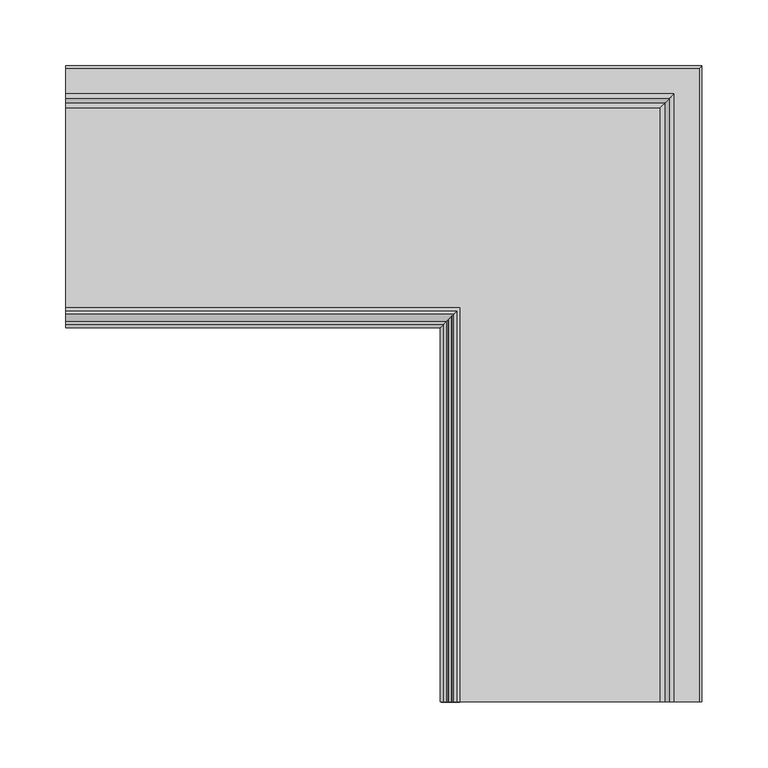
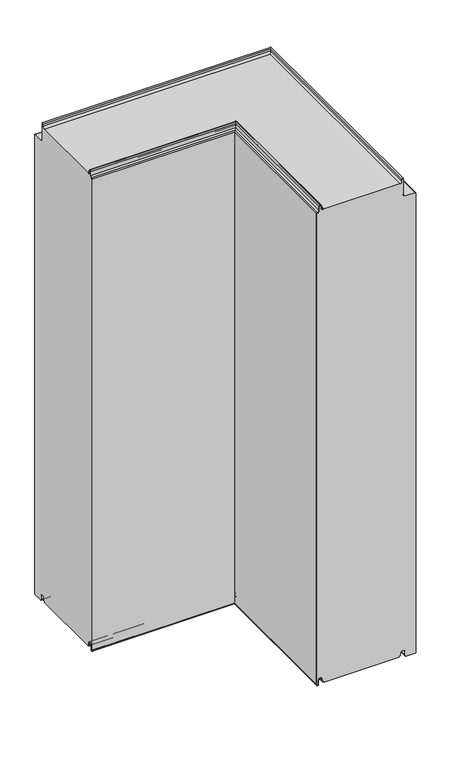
"""IFC4 building model written with IfcOpenShell, lengths in millimetres: plate geometry, Угловой модуль Fronttop : Угловой модуль Fronttop 200/1000."""

import ifcopenshell
import ifcopenshell.guid

model = None  # the IFC model being written
_history = None  # IfcOwnerHistory: only IFC2X3 demands one
_inside = {}  # id of a spatial element -> (the spatial element, [elements in it])
_under = {}  # id of a project, library or spatial element -> (it, [spatial elements below it])
_declared = {}  # id of a project -> (the project, [libraries it declares])
_typed = {}  # id of a type object -> (the type object, [elements of that type])
_made_of = {}  # id of a material, layer set ... -> (it, [elements and type objects made of it])


def new_model(schema):
    """Start an empty IFC model of exactly this schema.

    Asked for "IFC4X3", IfcOpenShell would pick the latest addendum, in which some entities
    have other attributes; the version numbers below select the first issue.
    IFC2X3 requires an IfcOwnerHistory on every rooted entity: one is made here for all.
    """
    global model, _history
    if schema == "IFC4X3":
        model = ifcopenshell.file(schema_version=(4, 3, 0, 0))
    else:
        model = ifcopenshell.file(schema=schema)
    _inside.clear()
    _under.clear()
    _declared.clear()
    _typed.clear()
    _made_of.clear()
    _history = None
    if model.schema == "IFC2X3":
        org = make("IfcOrganization", Name="unknown")
        user = make(
            "IfcPersonAndOrganization",
            ThePerson=make("IfcPerson", FamilyName="unknown"),
            TheOrganization=org,
        )
        app = make(
            "IfcApplication",
            ApplicationDeveloper=org,
            Version="unknown",
            ApplicationFullName="unknown",
            ApplicationIdentifier="unknown",
        )
        _history = make(
            "IfcOwnerHistory",
            OwningUser=user,
            OwningApplication=app,
            ChangeAction="ADDED",
            CreationDate=0,
        )
    return model


def make(cls, **values):
    """One entity of the class cls with the attributes given. An attribute that is None is left unset."""
    return model.create_entity(
        cls, **{name: value for name, value in values.items() if value is not None}
    )


def rooted(cls, **values):
    """An entity with a GlobalId (a new one), such as an element, a storey or a relation."""
    return make(cls, GlobalId=ifcopenshell.guid.new(), OwnerHistory=_history, **values)


def si_unit(unit_type, name, prefix=None):
    """IfcSIUnit, for example si_unit("LENGTHUNIT", "METRE", prefix="MILLI")."""
    return make("IfcSIUnit", UnitType=unit_type, Prefix=prefix, Name=name)


def assignment(units):
    """IfcUnitAssignment: the units of a project."""
    return None if units is None else make("IfcUnitAssignment", Units=units)


def point(xyz):
    """IfcCartesianPoint."""
    return None if xyz is None else make("IfcCartesianPoint", Coordinates=xyz)


def direction(xyz):
    """IfcDirection."""
    return None if xyz is None else make("IfcDirection", DirectionRatios=xyz)


def frame(location, z_axis=None, x_axis=None):
    """IfcAxis2Placement3D, a coordinate frame: its origin and axes. An axis left out is left unset."""
    return make(
        "IfcAxis2Placement3D",
        Location=point(location),
        Axis=direction(z_axis),
        RefDirection=direction(x_axis),
    )


def origin():
    """The frame at (0, 0, 0) with its axes left unset."""
    return frame((0.0, 0.0, 0.0))


def place(relative_to, where):
    """IfcLocalPlacement: puts the frame where relative to a parent placement (None: the world)."""
    return make(
        "IfcLocalPlacement", PlacementRelTo=relative_to, RelativePlacement=where
    )


def context(
    kind, dimensions, precision=None, world=None, true_north=None, identifier=None
):
    """IfcGeometricRepresentationContext, for example the 3D "Model" context."""
    return make(
        "IfcGeometricRepresentationContext",
        ContextIdentifier=identifier,
        ContextType=kind,
        CoordinateSpaceDimension=dimensions,
        Precision=precision,
        WorldCoordinateSystem=world,
        TrueNorth=true_north,
    )


def project(units=None, contexts=None):
    """IfcProject with its units and contexts."""
    return rooted(
        "IfcProject",
        Name="project",
        RepresentationContexts=contexts,
        UnitsInContext=assignment(units),
    )


def spatial(cls, under=None, at=None, **own):
    """A site, building, storey or space (cls), placed at a placement, below another one or the project."""
    s = rooted(cls, ObjectPlacement=at, **own)
    if under is not None:
        _under.setdefault(under.id(), (under, []))[1].append(s)
    return s


def polyline(points):
    """IfcPolyline through the points."""
    return make("IfcPolyline", Points=[point(p) for p in points])


def circle_curve(where, radius):
    """IfcCircle in the frame where."""
    return make("IfcCircle", Position=where, Radius=radius)


def ellipse_curve(where, semi_axis1, semi_axis2):
    """IfcEllipse in the frame where."""
    return make(
        "IfcEllipse", Position=where, SemiAxis1=semi_axis1, SemiAxis2=semi_axis2
    )


def shape(context_of_items, identifier, shape_type, items):
    """IfcShapeRepresentation: the items that make up one representation, for example the "Body"."""
    return make(
        "IfcShapeRepresentation",
        ContextOfItems=context_of_items,
        RepresentationIdentifier=identifier,
        RepresentationType=shape_type,
        Items=items,
    )


def source(mapping_origin, context_of_items, identifier, shape_type, items):
    """IfcRepresentationMap: a shape defined once, which mapped items show again and again."""
    return make(
        "IfcRepresentationMap",
        MappingOrigin=mapping_origin,
        MappedRepresentation=shape(context_of_items, identifier, shape_type, items),
    )


def transform(
    local_origin,
    x_axis=None,
    y_axis=None,
    z_axis=None,
    scale=None,
    scale2=None,
    scale3=None,
    uniform=True,
):
    """IfcCartesianTransformationOperator3D, or its non-uniform kind. x_axis, y_axis, z_axis: its Axis1, 2, 3."""
    if uniform:
        return make(
            "IfcCartesianTransformationOperator3D",
            Axis1=direction(x_axis),
            Axis2=direction(y_axis),
            LocalOrigin=point(local_origin),
            Scale=scale,
            Axis3=direction(z_axis),
        )
    return make(
        "IfcCartesianTransformationOperator3DnonUniform",
        Axis1=direction(x_axis),
        Axis2=direction(y_axis),
        LocalOrigin=point(local_origin),
        Scale=scale,
        Axis3=direction(z_axis),
        Scale2=scale2,
        Scale3=scale3,
    )


def mapped(mapping_source, mapping_target):
    """IfcMappedItem: shows the shape of a source again, moved by a transform."""
    return make(
        "IfcMappedItem", MappingSource=mapping_source, MappingTarget=mapping_target
    )


def made_of(thing, what):
    """Note that an element or type object is made of a material, layer set ...; save() writes the relation."""
    if what is not None:
        _made_of.setdefault(what.id(), (what, []))[1].append(thing)
    return thing


def element(
    cls,
    number,
    at=None,
    inside=None,
    cuts=None,
    type_object=None,
    material=None,
    context=None,
    identifier="Body",
    shape_type=None,
    held_by="IfcProductDefinitionShape",
    body=None,
    shapes=None,
    **own,
):
    """One element of the class cls, such as IfcWall. Its Tag is "e" and its number.

    at: its placement. inside: the storey or other place that contains it. cuts: it is an
    opening in that element (IfcRelVoidsElement). A single representation is given by context,
    identifier, shape_type and body (its items); several are given by shapes. held_by: the class
    of the entity that holds the representations. save() writes the other relations.
    """
    e = rooted(cls, Tag="e%d" % number, ObjectPlacement=at, **own)
    if body is not None:
        shapes = [shape(context, identifier, shape_type, body)]
    if shapes is not None:
        e.Representation = make(held_by, Representations=shapes)
    if inside is not None:
        _inside.setdefault(inside.id(), (inside, []))[1].append(e)
    if cuts is not None:
        rooted(
            "IfcRelVoidsElement", RelatingBuildingElement=cuts, RelatedOpeningElement=e
        )
    if type_object is not None:
        _typed.setdefault(type_object.id(), (type_object, []))[1].append(e)
    return made_of(e, material)


def aggregate(whole, parts):
    """IfcRelAggregates: a whole, such as a stair, and the parts it consists of."""
    return rooted("IfcRelAggregates", RelatingObject=whole, RelatedObjects=parts)


def save(model, path):
    """Write the relations noted so far, then the file.

    IfcRelAggregates (storeys below a building ...), IfcRelContainedInSpatialStructure (elements
    in a storey), IfcRelDefinesByType, IfcRelAssociatesMaterial and IfcRelDeclares: one each for
    every whole, place, type object, material and project.
    """
    for whole, parts in _under.values():
        aggregate(whole, parts)
    for where, things in _inside.values():
        rooted(
            "IfcRelContainedInSpatialStructure",
            RelatedElements=things,
            RelatingStructure=where,
        )
    for kind, things in _typed.values():
        rooted("IfcRelDefinesByType", RelatedObjects=things, RelatingType=kind)
    for what, things in _made_of.values():
        rooted("IfcRelAssociatesMaterial", RelatedObjects=things, RelatingMaterial=what)
    for by, libraries in _declared.values():
        rooted("IfcRelDeclares", RelatingContext=by, RelatedDefinitions=libraries)
    model.write(path)


def plane_surface(at):
    """IfcPlane: the flat surface through the origin of the frame at, square to its z axis."""
    return make("IfcPlane", Position=at)


def cylinder_surface(at, radius):
    """IfcCylindricalSurface: all points at the distance radius from the z axis of the frame at."""
    return make("IfcCylindricalSurface", Position=at, Radius=radius)


def revolved_surface(curve, axis_point, axis_direction):
    """IfcSurfaceOfRevolution: the curve turned about the line through axis_point along axis_direction."""
    return make(
        "IfcSurfaceOfRevolution",
        SweptCurve=make("IfcArbitraryOpenProfileDef", ProfileType="CURVE", Curve=curve),
        AxisPosition=make("IfcAxis1Placement", Location=point(axis_point), Axis=direction(axis_direction)),
    )


def advanced_brep(points, edges, surfaces, faces):
    """IfcAdvancedBrep: a solid bounded by faces that lie on surfaces and meet in shared edges.

    An edge is (start, end): straight between two places in points (the first is 0);
    or (start, end, curve); or (start, end, curve, False) where it runs against its curve.
    A face is (place in surfaces, loops), or (place, loops, False) where it looks against
    its surface's normal. A loop lists edges by number (the first is 1), with a minus sign
    where the edge is run from its end to its start. The first loop is the outer one.
    """
    corners = [point(p) for p in points]
    vertices = [make("IfcVertexPoint", VertexGeometry=c) for c in corners]
    made = []
    for start, end, *more in edges:
        made.append(
            make(
                "IfcEdgeCurve",
                EdgeStart=vertices[start],
                EdgeEnd=vertices[end],
                EdgeGeometry=more[0] if more else make("IfcPolyline", Points=[corners[start], corners[end]]),
                SameSense=more[1] if len(more) > 1 else True,
            )
        )
    hull = []
    for where, loops, *sense in faces:
        bounds = []
        for j, loop in enumerate(loops):
            ring = [make("IfcOrientedEdge", EdgeElement=made[abs(k) - 1], Orientation=k > 0) for k in loop]
            bounds.append(
                make(
                    "IfcFaceOuterBound" if j == 0 else "IfcFaceBound",
                    Bound=make("IfcEdgeLoop", EdgeList=ring),
                    Orientation=True,
                )
            )
        hull.append(make("IfcAdvancedFace", Bounds=bounds, FaceSurface=surfaces[where], SameSense=sense[0] if sense else True))
    return make("IfcAdvancedBrep", Outer=make("IfcClosedShell", CfsFaces=hull))


def plate_5b8e8318(model_context):
    return source(origin(), model_context, "Body", "AdvancedBrep", [
        advanced_brep(
        [(-234.5, 15.0, 3.0), (-234.5, 13.0, 3.0), (-234.5, 12.0, 4.0), (-234.5, 12.0, 8.0), (-234.5, 3.0, 8.0), (-234.5, 3.0, -0.5), (-234.5, 1.0, -0.5), (-234.5, 1.0, 995.0278643), (-234.5, 2.1111111, 996.0216723), (-234.5, 6.0, 999.5), (-234.5, 6.0, 1008.0), (-234.5, 9.0, 1008.0), (-234.5, 9.0, 1004.0), (-234.5, 13.0, 1000.0), (-234.5, 167.0, 1000.0), (-234.5, 171.0, 1004.0), (-234.5, 171.0, 1008.0), (-234.5, 174.0, 1008.0), (-234.5, 174.0, 975.0), (-234.5, 178.0, 971.0), (-234.5, 197.0, 971.0), (-234.5, 199.0, 969.0), (-234.5, 199.0, 0.0), (-234.5, 197.0, -2.0), (-234.5, 179.0, -2.0), (-234.5, 177.0, 0.0), (-234.5, 177.0, 8.0), (-234.5, 168.0, 8.0), (-234.5, 168.0, 4.0), (-234.5, 167.0, 3.0), (-234.5, 165.0, 3.0), (-234.5, 165.0, 0.0), (-234.5, 15.0, 0.0), (65.0, 15.0, 0.0), (65.0, 15.0, 3.0), (215.0, 165.0, 0.0), (215.0, -284.5, 0.0), (65.0, -284.5, 0.0), (215.0, 165.0, 3.0), (217.0, 167.0, 3.0), (217.0, -284.5, 3.0), (215.0, -284.5, 3.0), (218.0, 168.0, 4.0), (218.0, 168.0, 8.0), (227.0, 177.0, 8.0), (227.0, 177.0, 0.0), (229.0, 179.0, -2.0), (247.0, 197.0, -2.0), (247.0, -284.5, -2.0), (229.0, -284.5, -2.0), (249.0, 199.0, 0.0), (249.0, 199.0, 969.0), (247.0, 197.0, 971.0), (228.0, 178.0, 971.0), (228.0, -284.5, 971.0), (247.0, -284.5, 971.0), (224.0, 174.0, 975.0), (224.0, 174.0, 1008.0), (221.0, 171.0, 1008.0), (221.0, 171.0, 1004.0), (217.0, 167.0, 1000.0), (63.0, 13.0, 1000.0), (63.0, -284.5, 1000.0), (217.0, -284.5, 1000.0), (59.0, 9.0, 1004.0), (59.0, 9.0, 1008.0), (56.0, 6.0, 1008.0), (56.0, 6.0, 999.5), (52.1111111, 2.1111111, 996.021672), (51.0, 1.0, 995.0278643), (51.0, 1.0, -0.5), (53.0, 3.0, -0.5), (53.0, 3.0, 8.0), (62.0, 12.0, 8.0), (62.0, 12.0, 4.0), (63.0, 13.0, 3.0), (65.0, -284.5, 3.0), (63.0, -284.5, 3.0), (218.0, -284.5, 4.0), (218.0, -284.5, 8.0), (227.0, -284.5, 8.0), (227.0, -284.5, 0.0), (249.0, -284.5, 0.0), (249.0, -284.5, 969.0), (224.0, -284.5, 975.0), (224.0, -284.5, 1008.0), (221.0, -284.5, 1008.0), (221.0, -284.5, 1004.0), (59.0, -284.5, 1004.0), (59.0, -284.5, 1008.0), (56.0, -284.5, 1008.0), (56.0, -284.5, 999.5), (52.1111111, -284.5, 996.021672), (51.0, -284.5, 995.0278643), (51.0, -284.5, -0.5), (53.0, -284.5, -0.5), (53.0, -284.5, 8.0), (62.0, -284.5, 8.0), (62.0, -284.5, 4.0)],
        [
            (0, 1),
            (1, 2, circle_curve(frame((-234.5, 13.0, 4.0), z_axis=(-1.0, 0.0, 0.0), x_axis=(0.0, -1.0, 0.0)), 1.0)),
            (2, 3),
            (3, 4, circle_curve(frame((-234.5, 7.5, 8.0), z_axis=(1.0, 0.0, 0.0), x_axis=(0.0, -1.0, 0.0)), 4.5)),
            (4, 5),
            (5, 6, circle_curve(frame((-234.5, 2.0, -0.5), z_axis=(-1.0, 0.0, 0.0), x_axis=(0.0, -1.0, 0.0)), 1.0)),
            (6, 7),
            (7, 8, circle_curve(frame((-234.5, 2.0, 995.0278643), z_axis=(-1.0, 0.0, 0.0), x_axis=(0.0, -1.0, 0.0)), 1.0)),
            (8, 9, circle_curve(frame((-234.5, 2.5, 999.5), z_axis=(1.0, 0.0, 0.0), x_axis=(0.0, -1.0, 0.0)), 3.5)),
            (9, 10),
            (10, 11, circle_curve(frame((-234.5, 7.5, 1008.0), z_axis=(-1.0, 0.0, 0.0), x_axis=(0.0, -1.0, 0.0)), 1.5)),
            (11, 12),
            (12, 13, circle_curve(frame((-234.5, 13.0, 1004.0), z_axis=(1.0, 0.0, 0.0), x_axis=(0.0, -1.0, 0.0)), 4.0)),
            (13, 14),
            (14, 15, circle_curve(frame((-234.5, 167.0, 1004.0), z_axis=(1.0, 0.0, 0.0), x_axis=(0.0, -1.0, 0.0)), 4.0)),
            (15, 16),
            (16, 17, circle_curve(frame((-234.5, 172.5, 1008.0), z_axis=(-1.0, 0.0, 0.0), x_axis=(0.0, -1.0, 0.0)), 1.5)),
            (17, 18),
            (18, 19, circle_curve(frame((-234.5, 178.0, 975.0), z_axis=(1.0, 0.0, 0.0), x_axis=(0.0, -1.0, 0.0)), 4.0)),
            (19, 20),
            (20, 21, circle_curve(frame((-234.5, 197.0, 969.0), z_axis=(-1.0, 0.0, 0.0), x_axis=(0.0, -1.0, 0.0)), 2.0)),
            (21, 22),
            (22, 23, circle_curve(frame((-234.5, 197.0, 0.0), z_axis=(-1.0, 0.0, 0.0), x_axis=(0.0, -1.0, 0.0)), 2.0)),
            (23, 24),
            (24, 25, circle_curve(frame((-234.5, 179.0, 0.0), z_axis=(-1.0, 0.0, 0.0), x_axis=(0.0, -1.0, 0.0)), 2.0)),
            (25, 26),
            (26, 27, circle_curve(frame((-234.5, 172.5, 8.0), z_axis=(1.0, 0.0, 0.0), x_axis=(0.0, -1.0, 0.0)), 4.5)),
            (27, 28),
            (28, 29, circle_curve(frame((-234.5, 167.0, 4.0), z_axis=(-1.0, 0.0, 0.0), x_axis=(0.0, -1.0, 0.0)), 1.0)),
            (29, 30),
            (30, 31),
            (31, 32),
            (32, 0),
            (32, 33),
            (33, 34),
            (34, 0),
            (31, 35),
            (35, 36),
            (36, 37),
            (37, 33),
            (30, 38),
            (38, 35),
            (29, 39),
            (39, 40),
            (40, 41),
            (41, 38),
            (28, 42),
            (42, 39, ellipse_curve(frame((217.0, 167.0, 4.0), z_axis=(-0.7071067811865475, 0.7071067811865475, 0.0), x_axis=(-0.7071067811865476, -0.7071067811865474, 0.0)), 1.4142136, 1.0)),
            (27, 43),
            (43, 42),
            (26, 44),
            (44, 43, ellipse_curve(frame((222.5, 172.5, 8.0), z_axis=(0.7071067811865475, -0.7071067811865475, 0.0), x_axis=(0.7071067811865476, 0.7071067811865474, 0.0)), 6.363961, 4.5)),
            (25, 45),
            (45, 44),
            (24, 46),
            (46, 45, ellipse_curve(frame((229.0, 179.0, 0.0), z_axis=(-0.7071067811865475, 0.7071067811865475, 0.0), x_axis=(-0.7071067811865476, -0.7071067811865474, 0.0)), 2.8284271, 2.0)),
            (23, 47),
            (47, 48),
            (48, 49),
            (49, 46),
            (22, 50),
            (50, 47, ellipse_curve(frame((247.0, 197.0, 0.0), z_axis=(-0.7071067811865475, 0.7071067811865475, 0.0), x_axis=(-0.7071067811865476, -0.7071067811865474, 0.0)), 2.8284271, 2.0)),
            (21, 51),
            (51, 50),
            (20, 52),
            (52, 51, ellipse_curve(frame((247.0, 197.0, 969.0), z_axis=(-0.7071067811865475, 0.7071067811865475, 0.0), x_axis=(-0.7071067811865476, -0.7071067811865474, 0.0)), 2.8284271, 2.0)),
            (19, 53),
            (53, 54),
            (54, 55),
            (55, 52),
            (18, 56),
            (56, 53, ellipse_curve(frame((228.0, 178.0, 975.0), z_axis=(0.7071067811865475, -0.7071067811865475, 0.0), x_axis=(0.7071067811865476, 0.7071067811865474, 0.0)), 5.6568542, 4.0)),
            (17, 57),
            (57, 56),
            (16, 58),
            (58, 57, ellipse_curve(frame((222.5, 172.5, 1008.0), z_axis=(-0.7071067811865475, 0.7071067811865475, 0.0), x_axis=(-0.7071067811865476, -0.7071067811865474, 0.0)), 2.1213203, 1.5)),
            (15, 59),
            (59, 58),
            (14, 60),
            (60, 59, ellipse_curve(frame((217.0, 167.0, 1004.0), z_axis=(0.7071067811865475, -0.7071067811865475, 0.0), x_axis=(0.7071067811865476, 0.7071067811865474, 0.0)), 5.6568542, 4.0)),
            (13, 61),
            (61, 62),
            (62, 63),
            (63, 60),
            (12, 64),
            (64, 61, ellipse_curve(frame((63.0, 13.0, 1004.0), z_axis=(0.7071067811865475, -0.7071067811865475, 0.0), x_axis=(0.7071067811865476, 0.7071067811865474, 0.0)), 5.6568542, 4.0)),
            (11, 65),
            (65, 64),
            (10, 66),
            (66, 65, ellipse_curve(frame((57.5, 7.5, 1008.0), z_axis=(-0.7071067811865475, 0.7071067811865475, 0.0), x_axis=(-0.7071067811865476, -0.7071067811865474, 0.0)), 2.1213204, 1.5)),
            (9, 67),
            (67, 66),
            (8, 68),
            (68, 67, ellipse_curve(frame((52.5, 2.5, 999.5), z_axis=(0.7071067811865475, -0.7071067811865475, 0.0), x_axis=(0.7071067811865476, 0.7071067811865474, 0.0)), 4.9497475, 3.5)),
            (7, 69),
            (69, 68, ellipse_curve(frame((52.0, 2.0, 995.0278643), z_axis=(-0.7071067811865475, 0.7071067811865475, 0.0), x_axis=(-0.7071067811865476, -0.7071067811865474, 0.0)), 1.4142136, 1.0)),
            (6, 70),
            (70, 69),
            (5, 71),
            (71, 70, ellipse_curve(frame((52.0, 2.0, -0.5), z_axis=(-0.7071067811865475, 0.7071067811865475, 0.0), x_axis=(-0.7071067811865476, -0.7071067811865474, 0.0)), 1.4142136, 1.0)),
            (4, 72),
            (72, 71),
            (3, 73),
            (73, 72, ellipse_curve(frame((57.5, 7.5, 8.0), z_axis=(0.7071067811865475, -0.7071067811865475, 0.0), x_axis=(0.7071067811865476, 0.7071067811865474, 0.0)), 6.363961, 4.5)),
            (2, 74),
            (74, 73),
            (1, 75),
            (75, 74, ellipse_curve(frame((63.0, 13.0, 4.0), z_axis=(-0.7071067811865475, 0.7071067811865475, 0.0), x_axis=(-0.7071067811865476, -0.7071067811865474, 0.0)), 1.4142136, 1.0)),
            (34, 76),
            (76, 77),
            (77, 75),
            (76, 37),
            (36, 41),
            (40, 78, circle_curve(frame((217.0, -284.5, 4.0), z_axis=(0.0, -1.0, 0.0), x_axis=(-1.0, 0.0, 0.0)), 1.0)),
            (78, 79),
            (79, 80, circle_curve(frame((222.5, -284.5, 8.0), z_axis=(0.0, 1.0, 0.0), x_axis=(-1.0, 0.0, 0.0)), 4.5)),
            (80, 81),
            (81, 49, circle_curve(frame((229.0, -284.5, 0.0), z_axis=(0.0, -1.0, 0.0), x_axis=(-1.0, 0.0, 0.0)), 2.0)),
            (48, 82, circle_curve(frame((247.0, -284.5, 0.0), z_axis=(0.0, -1.0, 0.0), x_axis=(-1.0, 0.0, 0.0)), 2.0)),
            (82, 83),
            (83, 55, circle_curve(frame((247.0, -284.5, 969.0), z_axis=(0.0, -1.0, 0.0), x_axis=(-1.0, 0.0, 0.0)), 2.0)),
            (54, 84, circle_curve(frame((228.0, -284.5, 975.0), z_axis=(0.0, 1.0, 0.0), x_axis=(-1.0, 0.0, 0.0)), 4.0)),
            (84, 85),
            (85, 86, circle_curve(frame((222.5, -284.5, 1008.0), z_axis=(0.0, -1.0, 0.0), x_axis=(-1.0, 0.0, 0.0)), 1.5)),
            (86, 87),
            (87, 63, circle_curve(frame((217.0, -284.5, 1004.0), z_axis=(0.0, 1.0, 0.0), x_axis=(-1.0, 0.0, 0.0)), 4.0)),
            (62, 88, circle_curve(frame((63.0, -284.5, 1004.0), z_axis=(0.0, 1.0, 0.0), x_axis=(-1.0, 0.0, 0.0)), 4.0)),
            (88, 89),
            (89, 90, circle_curve(frame((57.5, -284.5, 1008.0), z_axis=(0.0, -1.0, 0.0), x_axis=(-1.0, 0.0, 0.0)), 1.5)),
            (90, 91),
            (91, 92, circle_curve(frame((52.5, -284.5, 999.5), z_axis=(0.0, 1.0, 0.0), x_axis=(-1.0, 0.0, 0.0)), 3.5)),
            (92, 93, circle_curve(frame((52.0, -284.5, 995.0278643), z_axis=(0.0, -1.0, 0.0), x_axis=(-1.0, 0.0, 0.0)), 1.0)),
            (93, 94),
            (94, 95, circle_curve(frame((52.0, -284.5, -0.5), z_axis=(0.0, -1.0, 0.0), x_axis=(-1.0, 0.0, 0.0)), 1.0)),
            (95, 96),
            (96, 97, circle_curve(frame((57.5, -284.5, 8.0), z_axis=(0.0, 1.0, 0.0), x_axis=(-1.0, 0.0, 0.0)), 4.5)),
            (97, 98),
            (98, 77, circle_curve(frame((63.0, -284.5, 4.0), z_axis=(0.0, -1.0, 0.0), x_axis=(-1.0, 0.0, 0.0)), 1.0)),
            (42, 78),
            (43, 79),
            (44, 80),
            (45, 81),
            (50, 82),
            (51, 83),
            (56, 84),
            (57, 85),
            (58, 86),
            (59, 87),
            (64, 88),
            (65, 89),
            (66, 90),
            (67, 91),
            (68, 92),
            (69, 93),
            (70, 94),
            (71, 95),
            (72, 96),
            (73, 97),
            (74, 98),
        ],
        [
            plane_surface(frame((-234.5, 0.0, 0.0), z_axis=(-1.0, 0.0, 0.0), x_axis=(0.0, 0.0, 1.0))),
            plane_surface(frame((-234.5, 15.0, 0.0), z_axis=(0.0, -1.0, 0.0), x_axis=(1.0, 0.0, 0.0))),
            plane_surface(frame((-234.5, 165.0, 0.0), z_axis=(0.0, 0.0, -1.0), x_axis=(1.0, 0.0, 0.0))),
            plane_surface(frame((-234.5, 165.0, 3.0), z_axis=(0.0, 1.0, 0.0), x_axis=(1.0, 0.0, 0.0))),
            plane_surface(frame((-234.5, 167.0, 3.0), z_axis=(0.0, 0.0, -1.0), x_axis=(1.0, 0.0, 0.0))),
            cylinder_surface(frame((-234.5, 167.0, 4.0), z_axis=(-1.0, 0.0, 0.0), x_axis=(0.0, -1.0, 0.0)), 1.0),
            plane_surface(frame((-234.5, 168.0, 8.0), z_axis=(0.0, 1.0, 0.0), x_axis=(1.0, 0.0, 0.0))),
            revolved_surface(polyline([(227.0, 168.0, 8.0), (-234.5, 168.0, 8.0)]), (-234.5, 172.5, 8.0), (1.0, 0.0, 0.0)),
            plane_surface(frame((-234.5, 177.0, 0.0), z_axis=(0.0, -1.0, 0.0), x_axis=(1.0, 0.0, 0.0))),
            cylinder_surface(frame((-234.5, 179.0, 0.0), z_axis=(-1.0, 0.0, 0.0), x_axis=(0.0, -1.0, 0.0)), 2.0),
            plane_surface(frame((-234.5, 197.0, -2.0), z_axis=(0.0, 0.0, -1.0), x_axis=(1.0, 0.0, 0.0))),
            cylinder_surface(frame((-234.5, 197.0, 0.0), z_axis=(-1.0, 0.0, 0.0), x_axis=(0.0, -1.0, 0.0)), 2.0),
            plane_surface(frame((-234.5, 199.0, 969.0), z_axis=(0.0, 1.0, 0.0), x_axis=(1.0, 0.0, 0.0))),
            cylinder_surface(frame((-234.5, 197.0, 969.0), z_axis=(-1.0, 0.0, 0.0), x_axis=(0.0, -1.0, 0.0)), 2.0),
            plane_surface(frame((-234.5, 178.0, 971.0), z_axis=(0.0, 0.0, 1.0), x_axis=(1.0, 0.0, 0.0))),
            revolved_surface(polyline([(231.9999999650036, 174.0, 975.0), (-234.5, 174.0, 975.0)]), (-234.5, 178.0, 975.0), (1.0, 0.0, 0.0)),
            plane_surface(frame((-234.5, 174.0, 1008.0), z_axis=(0.0, 1.0, 0.0), x_axis=(1.0, 0.0, 0.0))),
            cylinder_surface(frame((-234.5, 172.5, 1008.0), z_axis=(-1.0, 0.0, 0.0), x_axis=(0.0, -1.0, 0.0)), 1.5),
            plane_surface(frame((-234.5, 171.0, 1004.0), z_axis=(0.0, -1.0, 0.0), x_axis=(1.0, 0.0, 0.0))),
            revolved_surface(polyline([(221.0, 163.0, 1004.0), (-234.5, 163.0, 1004.0)]), (-234.5, 167.0, 1004.0), (1.0, 0.0, 0.0)),
            plane_surface(frame((-234.5, 13.0, 1000.0), z_axis=(0.0, 0.0, 1.0), x_axis=(1.0, 0.0, 0.0))),
            revolved_surface(polyline([(66.99999996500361, 9.0, 1004.0), (-234.5, 9.0, 1004.0)]), (-234.5, 13.0, 1004.0), (1.0, 0.0, 0.0)),
            plane_surface(frame((-234.5, 9.0, 1008.0), z_axis=(0.0, 1.0, 0.0), x_axis=(1.0, 0.0, 0.0))),
            cylinder_surface(frame((-234.5, 7.5, 1008.0), z_axis=(-1.0, 0.0, 0.0), x_axis=(0.0, -1.0, 0.0)), 1.5),
            plane_surface(frame((-234.5, 6.0, 999.5), z_axis=(0.0, -1.0, 0.0), x_axis=(1.0, 0.0, 0.0))),
            revolved_surface(polyline([(56.00000002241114, -1.0, 999.5), (-234.5, -1.0, 999.5)]), (-234.5, 2.5, 999.5), (1.0, 0.0, 0.0)),
            cylinder_surface(frame((-234.5, 2.0, 995.0278643), z_axis=(-1.0, 0.0, 0.0), x_axis=(0.0, -1.0, 0.0)), 1.0),
            plane_surface(frame((-234.5, 1.0, -0.5), z_axis=(0.0, -1.0, 0.0), x_axis=(1.0, 0.0, 0.0))),
            cylinder_surface(frame((-234.5, 2.0, -0.5), z_axis=(-1.0, 0.0, 0.0), x_axis=(0.0, -1.0, 0.0)), 1.0),
            plane_surface(frame((-234.5, 3.0, 8.0), z_axis=(0.0, 1.0, 0.0), x_axis=(1.0, 0.0, 0.0))),
            revolved_surface(polyline([(62.0, 3.0, 8.0), (-234.5, 3.0, 8.0)]), (-234.5, 7.5, 8.0), (1.0, 0.0, 0.0)),
            plane_surface(frame((-234.5, 12.0, 4.0), z_axis=(0.0, -1.0, 0.0), x_axis=(1.0, 0.0, 0.0))),
            cylinder_surface(frame((-234.5, 13.0, 4.0), z_axis=(-1.0, 0.0, 0.0), x_axis=(0.0, -1.0, 0.0)), 1.0),
            plane_surface(frame((-234.5, 15.0, 3.0), z_axis=(0.0, 0.0, -1.0), x_axis=(1.0, 0.0, 0.0))),
            plane_surface(frame((50.0, -284.5, 0.0), z_axis=(0.0, -1.0, 0.0), x_axis=(0.0, 0.0, 1.0))),
            plane_surface(frame((65.0, 15.0, 0.0), z_axis=(-1.0, 0.0, 0.0), x_axis=(0.0, -1.0, 0.0))),
            plane_surface(frame((215.0, 165.0, 3.0), z_axis=(1.0, 0.0, 0.0), x_axis=(0.0, -1.0, 0.0))),
            cylinder_surface(frame((217.0, 0.0, 4.0), z_axis=(0.0, 1.0, 0.0), x_axis=(-1.0, 0.0, 0.0)), 1.0),
            plane_surface(frame((218.0, 168.0, 8.0), z_axis=(1.0, 0.0, 0.0), x_axis=(0.0, -1.0, 0.0))),
            revolved_surface(polyline([(218.0, -284.5, 8.0), (218.0, 177.0, 8.0)]), (222.5, 0.0, 8.0), (0.0, -1.0, 0.0)),
            plane_surface(frame((227.0, 177.0, 0.0), z_axis=(-1.0, 0.0, 0.0), x_axis=(0.0, -1.0, 0.0))),
            cylinder_surface(frame((229.0, 0.0, 0.0), z_axis=(0.0, 1.0, 0.0), x_axis=(-1.0, 0.0, 0.0)), 2.0),
            cylinder_surface(frame((247.0, 0.0, 0.0), z_axis=(0.0, 1.0, 0.0), x_axis=(-1.0, 0.0, 0.0)), 2.0),
            plane_surface(frame((249.0, 199.0, 969.0), z_axis=(1.0, 0.0, 0.0), x_axis=(0.0, -1.0, 0.0))),
            cylinder_surface(frame((247.0, 0.0, 969.0), z_axis=(0.0, 1.0, 0.0), x_axis=(-1.0, 0.0, 0.0)), 2.0),
            revolved_surface(polyline([(224.0, -284.5, 975.0), (224.0, 181.9999999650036, 975.0)]), (228.0, 0.0, 975.0), (0.0, -1.0, 0.0)),
            plane_surface(frame((224.0, 174.0, 1008.0), z_axis=(1.0, 0.0, 0.0), x_axis=(0.0, -1.0, 0.0))),
            cylinder_surface(frame((222.5, 0.0, 1008.0), z_axis=(0.0, 1.0, 0.0), x_axis=(-1.0, 0.0, 0.0)), 1.5),
            plane_surface(frame((221.0, 171.0, 1004.0), z_axis=(-1.0, 0.0, 0.0), x_axis=(0.0, -1.0, 0.0))),
            revolved_surface(polyline([(213.0, -284.5, 1004.0), (213.0, 171.0, 1004.0)]), (217.0, 0.0, 1004.0), (0.0, -1.0, 0.0)),
            revolved_surface(polyline([(59.0, -284.5, 1004.0), (59.0, 16.999999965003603, 1004.0)]), (63.0, 0.0, 1004.0), (0.0, -1.0, 0.0)),
            plane_surface(frame((59.0, 9.0, 1008.0), z_axis=(1.0, 0.0, 0.0), x_axis=(0.0, -1.0, 0.0))),
            cylinder_surface(frame((57.5, 0.0, 1008.0), z_axis=(0.0, 1.0, 0.0), x_axis=(-1.0, 0.0, 0.0)), 1.5),
            plane_surface(frame((56.0, 6.0, 999.5), z_axis=(-1.0, 0.0, 0.0), x_axis=(0.0, -1.0, 0.0))),
            revolved_surface(polyline([(49.0, -284.5, 999.5), (49.0, 6.000000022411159, 999.5)]), (52.5, 0.0, 999.5), (0.0, -1.0, 0.0)),
            cylinder_surface(frame((52.0, 0.0, 995.0278643), z_axis=(0.0, 1.0, 0.0), x_axis=(-1.0, 0.0, 0.0)), 1.0),
            plane_surface(frame((51.0, 1.0, -0.5), z_axis=(-1.0, 0.0, 0.0), x_axis=(0.0, -1.0, 0.0))),
            cylinder_surface(frame((52.0, 0.0, -0.5), z_axis=(0.0, 1.0, 0.0), x_axis=(-1.0, 0.0, 0.0)), 1.0),
            plane_surface(frame((53.0, 3.0, 8.0), z_axis=(1.0, 0.0, 0.0), x_axis=(0.0, -1.0, 0.0))),
            revolved_surface(polyline([(53.0, -284.5, 8.0), (53.0, 12.0, 8.0)]), (57.5, 0.0, 8.0), (0.0, -1.0, 0.0)),
            plane_surface(frame((62.0, 12.0, 4.0), z_axis=(-1.0, 0.0, 0.0), x_axis=(0.0, -1.0, 0.0))),
            cylinder_surface(frame((63.0, 0.0, 4.0), z_axis=(0.0, 1.0, 0.0), x_axis=(-1.0, 0.0, 0.0)), 1.0),
        ],
        [
            (0, [[1, 2, 3, 4, 5, 6, 7, 8, 9, 10, 11, 12, 13, 14, 15, 16, 17, 18, 19, 20, 21, 22, 23, 24, 25, 26, 27, 28, 29, 30, 31, 32, 33]]),
            (1, [[-33, 34, 35, 36]]),
            (2, [[-32, 37, 38, 39, 40, -34]]),
            (3, [[-31, 41, 42, -37]]),
            (4, [[-30, 43, 44, 45, 46, -41]]),
            (5, [[-29, 47, 48, -43]]),
            (6, [[-28, 49, 50, -47]]),
            (7, [[-27, 51, 52, -49]]),
            (8, [[-26, 53, 54, -51]]),
            (9, [[-25, 55, 56, -53]]),
            (10, [[-24, 57, 58, 59, 60, -55]]),
            (11, [[-23, 61, 62, -57]]),
            (12, [[-22, 63, 64, -61]]),
            (13, [[-21, 65, 66, -63]]),
            (14, [[-20, 67, 68, 69, 70, -65]]),
            (15, [[-19, 71, 72, -67]]),
            (16, [[-18, 73, 74, -71]]),
            (17, [[-17, 75, 76, -73]]),
            (18, [[-16, 77, 78, -75]]),
            (19, [[-15, 79, 80, -77]]),
            (20, [[-14, 81, 82, 83, 84, -79]]),
            (21, [[-13, 85, 86, -81]]),
            (22, [[-12, 87, 88, -85]]),
            (23, [[-11, 89, 90, -87]]),
            (24, [[-10, 91, 92, -89]]),
            (25, [[-9, 93, 94, -91]]),
            (26, [[-8, 95, 96, -93]]),
            (27, [[-7, 97, 98, -95]]),
            (28, [[-6, 99, 100, -97]]),
            (29, [[-5, 101, 102, -99]]),
            (30, [[-4, 103, 104, -101]]),
            (31, [[-3, 105, 106, -103]]),
            (32, [[-2, 107, 108, -105]]),
            (33, [[-1, -36, 109, 110, 111, -107]]),
            (34, [[112, -39, 113, -45, 114, 115, 116, 117, 118, -59, 119, 120, 121, -69, 122, 123, 124, 125, 126, -83, 127, 128, 129, 130, 131, 132, 133, 134, 135, 136, 137, 138, -110]]),
            (35, [[-35, -40, -112, -109]]),
            (36, [[-42, -46, -113, -38]]),
            (37, [[-48, 139, -114, -44]]),
            (38, [[-50, 140, -115, -139]]),
            (39, [[-52, 141, -116, -140]]),
            (40, [[-54, 142, -117, -141]]),
            (41, [[-56, -60, -118, -142]]),
            (42, [[-62, 143, -119, -58]]),
            (43, [[-64, 144, -120, -143]]),
            (44, [[-66, -70, -121, -144]]),
            (45, [[-72, 145, -122, -68]]),
            (46, [[-74, 146, -123, -145]]),
            (47, [[-76, 147, -124, -146]]),
            (48, [[-78, 148, -125, -147]]),
            (49, [[-80, -84, -126, -148]]),
            (50, [[-86, 149, -127, -82]]),
            (51, [[-88, 150, -128, -149]]),
            (52, [[-90, 151, -129, -150]]),
            (53, [[-92, 152, -130, -151]]),
            (54, [[-94, 153, -131, -152]]),
            (55, [[-96, 154, -132, -153]]),
            (56, [[-98, 155, -133, -154]]),
            (57, [[-100, 156, -134, -155]]),
            (58, [[-102, 157, -135, -156]]),
            (59, [[-104, 158, -136, -157]]),
            (60, [[-106, 159, -137, -158]]),
            (61, [[-108, -111, -138, -159]]),
        ],
    ),
        advanced_brep(
        [(-234.5, 13.0, 1001.0), (-234.5, 15.0, 1001.0), (-234.5, 15.0, 1000.0), (-234.5, 13.0, 1000.0), (-234.5, 9.0, 1004.0), (-234.5, 9.0, 1008.0), (-234.5, 6.0, 1008.0), (-234.5, 6.0, 999.5), (-234.5, 2.1134897, 996.0214069), (-234.5, 1.0, 995.0), (-234.5, 1.0, -0.5), (-234.5, 3.0, -0.5), (-234.5, 3.0, 8.0), (-234.5, 12.0, 8.0), (-234.5, 12.0, 4.0), (-234.5, 13.0, 3.0), (-234.5, 15.0, 3.0), (-234.5, 15.0, 2.0), (-234.5, 13.0, 2.0), (-234.5, 11.0, 4.0), (-234.5, 11.0, 8.0), (-234.5, 4.0, 8.0), (-234.5, 4.0, -0.5), (-234.5, 0.0, -0.5), (-234.5, 0.0, 995.0), (-234.5, 2.220863, 996.9877675), (-234.5, 5.0, 999.5), (-234.5, 5.0, 1008.0), (-234.5, 10.0, 1008.0), (-234.5, 10.0, 1004.0), (63.0, 13.0, 1001.0), (63.0, -284.5, 1001.0), (65.0, -284.5, 1001.0), (65.0, 15.0, 1001.0), (65.0, 15.0, 1000.0), (65.0, -284.5, 1000.0), (63.0, -284.5, 1000.0), (63.0, 13.0, 1000.0), (59.0, 9.0, 1004.0), (59.0, 9.0, 1008.0), (56.0, 6.0, 1008.0), (56.0, 6.0, 999.5), (52.1134897, 2.1134897, 996.0214069), (51.0, 1.0, 995.0), (51.0, 1.0, -0.5), (53.0, 3.0, -0.5), (53.0, 3.0, 8.0), (62.0, 12.0, 8.0), (62.0, 12.0, 4.0), (63.0, 13.0, 3.0), (63.0, -284.5, 3.0), (65.0, -284.5, 3.0), (65.0, 15.0, 3.0), (65.0, 15.0, 2.0), (65.0, -284.5, 2.0), (63.0, -284.5, 2.0), (63.0, 13.0, 2.0), (61.0, 11.0, 4.0), (61.0, 11.0, 8.0), (54.0, 4.0, 8.0), (54.0, 4.0, -0.5), (50.0, 0.0, -0.5), (50.0, 0.0, 995.0), (52.220863, 2.220863, 996.9877675), (55.0, 5.0, 999.5), (55.0, 5.0, 1008.0), (60.0, 10.0, 1008.0), (60.0, 10.0, 1004.0), (60.0, -284.5, 1004.0), (60.0, -284.5, 1008.0), (55.0, -284.5, 1008.0), (55.0, -284.5, 999.5), (52.2239212, -284.5, 997.0152907), (50.0, -284.5, 995.0), (50.0, -284.5, -0.5), (54.0, -284.5, -0.5), (54.0, -284.5, 8.0), (61.0, -284.5, 8.0), (61.0, -284.5, 4.0), (62.0, -284.5, 4.0), (62.0, -284.5, 8.0), (53.0, -284.5, 8.0), (53.0, -284.5, -0.5), (51.0, -284.5, -0.5), (51.0, -284.5, 995.0), (52.1104315, -284.5, 995.9938837), (56.0, -284.5, 999.5), (56.0, -284.5, 1008.0), (59.0, -284.5, 1008.0), (59.0, -284.5, 1004.0)],
        [
            (0, 1),
            (1, 2),
            (2, 3),
            (3, 4, circle_curve(frame((-234.5, 13.0, 1004.0), z_axis=(-1.0, 0.0, 0.0), x_axis=(0.0, -1.0, 0.0)), 4.0)),
            (4, 5),
            (5, 6, circle_curve(frame((-234.5, 7.5, 1008.0), z_axis=(1.0, 0.0, 0.0), x_axis=(0.0, -1.0, 0.0)), 1.5)),
            (6, 7),
            (7, 8, circle_curve(frame((-234.5, 2.5, 999.5), z_axis=(-1.0, 0.0, 0.0), x_axis=(0.0, -1.0, 0.0)), 3.5)),
            (8, 9, circle_curve(frame((-234.5, 2.0, 995.0), z_axis=(1.0, 0.0, 0.0), x_axis=(0.0, -1.0, 0.0)), 1.0)),
            (9, 10),
            (10, 11, circle_curve(frame((-234.5, 2.0, -0.5), z_axis=(1.0, 0.0, 0.0), x_axis=(0.0, -1.0, 0.0)), 1.0)),
            (11, 12),
            (12, 13, circle_curve(frame((-234.5, 7.5, 8.0), z_axis=(-1.0, 0.0, 0.0), x_axis=(0.0, -1.0, 0.0)), 4.5)),
            (13, 14),
            (14, 15, circle_curve(frame((-234.5, 13.0, 4.0), z_axis=(1.0, 0.0, 0.0), x_axis=(0.0, -1.0, 0.0)), 1.0)),
            (15, 16),
            (16, 17),
            (17, 18),
            (18, 19, circle_curve(frame((-234.5, 13.0, 4.0), z_axis=(-1.0, 0.0, 0.0), x_axis=(0.0, -1.0, 0.0)), 2.0)),
            (19, 20),
            (20, 21, circle_curve(frame((-234.5, 7.5, 8.0), z_axis=(1.0, 0.0, 0.0), x_axis=(0.0, -1.0, 0.0)), 3.5)),
            (21, 22),
            (22, 23, circle_curve(frame((-234.5, 2.0, -0.5), z_axis=(-1.0, 0.0, 0.0), x_axis=(0.0, -1.0, 0.0)), 2.0)),
            (23, 24),
            (24, 25, circle_curve(frame((-234.5, 2.0, 995.0), z_axis=(-1.0, 0.0, 0.0), x_axis=(0.0, -1.0, 0.0)), 2.0)),
            (25, 26, circle_curve(frame((-234.5, 2.5, 999.5), z_axis=(1.0, 0.0, 0.0), x_axis=(0.0, -1.0, 0.0)), 2.5)),
            (26, 27),
            (27, 28, circle_curve(frame((-234.5, 7.5, 1008.0), z_axis=(-1.0, 0.0, 0.0), x_axis=(0.0, -1.0, 0.0)), 2.5)),
            (28, 29),
            (29, 0, circle_curve(frame((-234.5, 13.0, 1004.0), z_axis=(1.0, 0.0, 0.0), x_axis=(0.0, -1.0, 0.0)), 3.0)),
            (0, 30),
            (30, 31),
            (31, 32),
            (32, 33),
            (33, 1),
            (33, 34),
            (34, 2),
            (34, 35),
            (35, 36),
            (36, 37),
            (37, 3),
            (37, 38, ellipse_curve(frame((63.0, 13.0, 1004.0), z_axis=(-0.7071067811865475, 0.7071067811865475, 0.0), x_axis=(-0.7071067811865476, -0.7071067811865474, 0.0)), 5.6568542, 4.0)),
            (38, 4),
            (38, 39),
            (39, 5),
            (39, 40, ellipse_curve(frame((57.5, 7.5, 1008.0), z_axis=(0.7071067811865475, -0.7071067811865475, 0.0), x_axis=(0.7071067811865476, 0.7071067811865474, 0.0)), 2.1213204, 1.5)),
            (40, 6),
            (40, 41),
            (41, 7),
            (41, 42, ellipse_curve(frame((52.5, 2.5, 999.5), z_axis=(-0.7071067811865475, 0.7071067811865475, 0.0), x_axis=(-0.7071067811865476, -0.7071067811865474, 0.0)), 4.9497475, 3.5)),
            (42, 8),
            (42, 43, ellipse_curve(frame((52.0, 2.0, 995.0), z_axis=(0.7071067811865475, -0.7071067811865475, 0.0), x_axis=(0.7071067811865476, 0.7071067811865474, 0.0)), 1.4142136, 1.0)),
            (43, 9),
            (43, 44),
            (44, 10),
            (44, 45, ellipse_curve(frame((52.0, 2.0, -0.5), z_axis=(0.7071067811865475, -0.7071067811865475, 0.0), x_axis=(0.7071067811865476, 0.7071067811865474, 0.0)), 1.4142136, 1.0)),
            (45, 11),
            (45, 46),
            (46, 12),
            (46, 47, ellipse_curve(frame((57.5, 7.5, 8.0), z_axis=(-0.7071067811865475, 0.7071067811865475, 0.0), x_axis=(-0.7071067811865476, -0.7071067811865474, 0.0)), 6.363961, 4.5)),
            (47, 13),
            (47, 48),
            (48, 14),
            (48, 49, ellipse_curve(frame((63.0, 13.0, 4.0), z_axis=(0.7071067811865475, -0.7071067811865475, 0.0), x_axis=(0.7071067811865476, 0.7071067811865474, 0.0)), 1.4142136, 1.0)),
            (49, 15),
            (49, 50),
            (50, 51),
            (51, 52),
            (52, 16),
            (52, 53),
            (53, 17),
            (53, 54),
            (54, 55),
            (55, 56),
            (56, 18),
            (56, 57, ellipse_curve(frame((63.0, 13.0, 4.0), z_axis=(-0.7071067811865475, 0.7071067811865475, 0.0), x_axis=(-0.7071067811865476, -0.7071067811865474, 0.0)), 2.8284271, 2.0)),
            (57, 19),
            (57, 58),
            (58, 20),
            (58, 59, ellipse_curve(frame((57.5, 7.5, 8.0), z_axis=(0.7071067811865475, -0.7071067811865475, 0.0), x_axis=(0.7071067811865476, 0.7071067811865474, 0.0)), 4.9497475, 3.5)),
            (59, 21),
            (59, 60),
            (60, 22),
            (60, 61, ellipse_curve(frame((52.0, 2.0, -0.5), z_axis=(-0.7071067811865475, 0.7071067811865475, 0.0), x_axis=(-0.7071067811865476, -0.7071067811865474, 0.0)), 2.8284271, 2.0)),
            (61, 23),
            (61, 62),
            (62, 24),
            (62, 63, ellipse_curve(frame((52.0, 2.0, 995.0), z_axis=(-0.7071067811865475, 0.7071067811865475, 0.0), x_axis=(-0.7071067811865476, -0.7071067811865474, 0.0)), 2.8284271, 2.0)),
            (63, 25),
            (63, 64, ellipse_curve(frame((52.5, 2.5, 999.5), z_axis=(0.7071067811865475, -0.7071067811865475, 0.0), x_axis=(0.7071067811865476, 0.7071067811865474, 0.0)), 3.5355339, 2.5)),
            (64, 26),
            (64, 65),
            (65, 27),
            (65, 66, ellipse_curve(frame((57.5, 7.5, 1008.0), z_axis=(-0.7071067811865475, 0.7071067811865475, 0.0), x_axis=(-0.7071067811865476, -0.7071067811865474, 0.0)), 3.5355339, 2.5)),
            (66, 28),
            (66, 67),
            (67, 29),
            (67, 30, ellipse_curve(frame((63.0, 13.0, 1004.0), z_axis=(0.7071067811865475, -0.7071067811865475, 0.0), x_axis=(0.7071067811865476, 0.7071067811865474, 0.0)), 4.2426407, 3.0)),
            (31, 68, circle_curve(frame((63.0, -284.5, 1004.0), z_axis=(0.0, 1.0, 0.0), x_axis=(-1.0, 0.0, 0.0)), 3.0)),
            (68, 69),
            (69, 70, circle_curve(frame((57.5, -284.5, 1008.0), z_axis=(0.0, -1.0, 0.0), x_axis=(-1.0, 0.0, 0.0)), 2.5)),
            (70, 71),
            (71, 72, circle_curve(frame((52.5, -284.5, 999.5), z_axis=(0.0, 1.0, 0.0), x_axis=(-1.0, 0.0, 0.0)), 2.5)),
            (72, 73, circle_curve(frame((52.0, -284.5, 995.0), z_axis=(0.0, -1.0, 0.0), x_axis=(-1.0, 0.0, 0.0)), 2.0)),
            (73, 74),
            (74, 75, circle_curve(frame((52.0, -284.5, -0.5), z_axis=(0.0, -1.0, 0.0), x_axis=(-1.0, 0.0, 0.0)), 2.0)),
            (75, 76),
            (76, 77, circle_curve(frame((57.5, -284.5, 8.0), z_axis=(0.0, 1.0, 0.0), x_axis=(-1.0, 0.0, 0.0)), 3.5)),
            (77, 78),
            (78, 55, circle_curve(frame((63.0, -284.5, 4.0), z_axis=(0.0, -1.0, 0.0), x_axis=(-1.0, 0.0, 0.0)), 2.0)),
            (54, 51),
            (50, 79, circle_curve(frame((63.0, -284.5, 4.0), z_axis=(0.0, 1.0, 0.0), x_axis=(-1.0, 0.0, 0.0)), 1.0)),
            (79, 80),
            (80, 81, circle_curve(frame((57.5, -284.5, 8.0), z_axis=(0.0, -1.0, 0.0), x_axis=(-1.0, 0.0, 0.0)), 4.5)),
            (81, 82),
            (82, 83, circle_curve(frame((52.0, -284.5, -0.5), z_axis=(0.0, 1.0, 0.0), x_axis=(-1.0, 0.0, 0.0)), 1.0)),
            (83, 84),
            (84, 85, circle_curve(frame((52.0, -284.5, 995.0), z_axis=(0.0, 1.0, 0.0), x_axis=(-1.0, 0.0, 0.0)), 1.0)),
            (85, 86, circle_curve(frame((52.5, -284.5, 999.5), z_axis=(0.0, -1.0, 0.0), x_axis=(-1.0, 0.0, 0.0)), 3.5)),
            (86, 87),
            (87, 88, circle_curve(frame((57.5, -284.5, 1008.0), z_axis=(0.0, 1.0, 0.0), x_axis=(-1.0, 0.0, 0.0)), 1.5)),
            (88, 89),
            (89, 36, circle_curve(frame((63.0, -284.5, 1004.0), z_axis=(0.0, -1.0, 0.0), x_axis=(-1.0, 0.0, 0.0)), 4.0)),
            (35, 32),
            (89, 38),
            (88, 39),
            (87, 40),
            (86, 41),
            (85, 42),
            (84, 43),
            (83, 44),
            (82, 45),
            (81, 46),
            (80, 47),
            (79, 48),
            (78, 57),
            (77, 58),
            (76, 59),
            (75, 60),
            (74, 61),
            (73, 62),
            (72, 63),
            (71, 64),
            (70, 65),
            (69, 66),
            (68, 67),
        ],
        [
            plane_surface(frame((-234.5, 0.0, 0.0), z_axis=(-1.0, 0.0, 0.0), x_axis=(0.0, 0.0, 1.0))),
            plane_surface(frame((-234.5, 13.0, 1001.0), z_axis=(0.0, 0.0, 1.0), x_axis=(1.0, 0.0, 0.0))),
            plane_surface(frame((-234.5, 15.0, 1001.0), z_axis=(0.0, 1.0, 0.0), x_axis=(1.0, 0.0, 0.0))),
            plane_surface(frame((-234.5, 15.0, 1000.0), z_axis=(0.0, 0.0, -1.0), x_axis=(1.0, 0.0, 0.0))),
            cylinder_surface(frame((-234.5, 13.0, 1004.0), z_axis=(-1.0, 0.0, 0.0), x_axis=(0.0, -1.0, 0.0)), 4.0),
            plane_surface(frame((-234.5, 9.0, 1004.0), z_axis=(0.0, -1.0, 0.0), x_axis=(1.0, 0.0, 0.0))),
            revolved_surface(polyline([(59.00000003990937, 6.0, 1008.0), (-234.5, 6.0, 1008.0)]), (-234.5, 7.5, 1008.0), (1.0, 0.0, 0.0)),
            plane_surface(frame((-234.5, 6.0, 1008.0), z_axis=(0.0, 1.0, 0.0), x_axis=(1.0, 0.0, 0.0))),
            cylinder_surface(frame((-234.5, 2.5, 999.5), z_axis=(-1.0, 0.0, 0.0), x_axis=(0.0, -1.0, 0.0)), 3.5),
            revolved_surface(polyline([(53.000000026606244, 1.0, 995.0), (-234.5, 1.0, 995.0)]), (-234.5, 2.0, 995.0), (1.0, 0.0, 0.0)),
            plane_surface(frame((-234.5, 1.0, 995.0), z_axis=(0.0, 1.0, 0.0), x_axis=(1.0, 0.0, 0.0))),
            revolved_surface(polyline([(53.000000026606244, 1.0, -0.5), (-234.5, 1.0, -0.5)]), (-234.5, 2.0, -0.5), (1.0, 0.0, 0.0)),
            plane_surface(frame((-234.5, 3.0, -0.5), z_axis=(0.0, -1.0, 0.0), x_axis=(1.0, 0.0, 0.0))),
            cylinder_surface(frame((-234.5, 7.5, 8.0), z_axis=(-1.0, 0.0, 0.0), x_axis=(0.0, -1.0, 0.0)), 4.5),
            plane_surface(frame((-234.5, 12.0, 8.0), z_axis=(0.0, 1.0, 0.0), x_axis=(1.0, 0.0, 0.0))),
            revolved_surface(polyline([(64.00000002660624, 12.0, 4.0), (-234.5, 12.0, 4.0)]), (-234.5, 13.0, 4.0), (1.0, 0.0, 0.0)),
            plane_surface(frame((-234.5, 13.0, 3.0), z_axis=(0.0, 0.0, 1.0), x_axis=(1.0, 0.0, 0.0))),
            plane_surface(frame((-234.5, 15.0, 3.0), z_axis=(0.0, 1.0, 0.0), x_axis=(1.0, 0.0, 0.0))),
            plane_surface(frame((-234.5, 15.0, 2.0), z_axis=(0.0, 0.0, -1.0), x_axis=(1.0, 0.0, 0.0))),
            cylinder_surface(frame((-234.5, 13.0, 4.0), z_axis=(-1.0, 0.0, 0.0), x_axis=(0.0, -1.0, 0.0)), 2.0),
            plane_surface(frame((-234.5, 11.0, 4.0), z_axis=(0.0, -1.0, 0.0), x_axis=(1.0, 0.0, 0.0))),
            revolved_surface(polyline([(61.00000002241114, 4.0, 8.0), (-234.5, 4.0, 8.0)]), (-234.5, 7.5, 8.0), (1.0, 0.0, 0.0)),
            plane_surface(frame((-234.5, 4.0, 8.0), z_axis=(0.0, 1.0, 0.0), x_axis=(1.0, 0.0, 0.0))),
            cylinder_surface(frame((-234.5, 2.0, -0.5), z_axis=(-1.0, 0.0, 0.0), x_axis=(0.0, -1.0, 0.0)), 2.0),
            plane_surface(frame((-234.5, 0.0, -0.5), z_axis=(0.0, -1.0, 0.0), x_axis=(1.0, 0.0, 0.0))),
            cylinder_surface(frame((-234.5, 2.0, 995.0), z_axis=(-1.0, 0.0, 0.0), x_axis=(0.0, -1.0, 0.0)), 2.0),
            revolved_surface(polyline([(55.0, 0.0, 999.5), (-234.5, 0.0, 999.5)]), (-234.5, 2.5, 999.5), (1.0, 0.0, 0.0)),
            plane_surface(frame((-234.5, 5.0, 999.5), z_axis=(0.0, -1.0, 0.0), x_axis=(1.0, 0.0, 0.0))),
            cylinder_surface(frame((-234.5, 7.5, 1008.0), z_axis=(-1.0, 0.0, 0.0), x_axis=(0.0, -1.0, 0.0)), 2.5),
            plane_surface(frame((-234.5, 10.0, 1008.0), z_axis=(0.0, 1.0, 0.0), x_axis=(1.0, 0.0, 0.0))),
            revolved_surface(polyline([(66.00000000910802, 10.0, 1004.0), (-234.5, 10.0, 1004.0)]), (-234.5, 13.0, 1004.0), (1.0, 0.0, 0.0)),
            plane_surface(frame((50.0, -284.5, 0.0), z_axis=(0.0, -1.0, 0.0), x_axis=(0.0, 0.0, 1.0))),
            plane_surface(frame((65.0, 15.0, 1001.0), z_axis=(1.0, 0.0, 0.0), x_axis=(0.0, -1.0, 0.0))),
            cylinder_surface(frame((63.0, 0.0, 1004.0), z_axis=(0.0, 1.0, 0.0), x_axis=(-1.0, 0.0, 0.0)), 4.0),
            plane_surface(frame((59.0, 9.0, 1004.0), z_axis=(-1.0, 0.0, 0.0), x_axis=(0.0, -1.0, 0.0))),
            revolved_surface(polyline([(56.0, -284.5, 1008.0), (56.0, 9.00000003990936, 1008.0)]), (57.5, 0.0, 1008.0), (0.0, -1.0, 0.0)),
            plane_surface(frame((56.0, 6.0, 1008.0), z_axis=(1.0, 0.0, 0.0), x_axis=(0.0, -1.0, 0.0))),
            cylinder_surface(frame((52.5, 0.0, 999.5), z_axis=(0.0, 1.0, 0.0), x_axis=(-1.0, 0.0, 0.0)), 3.5),
            revolved_surface(polyline([(51.0, -284.5, 995.0), (51.0, 3.0000000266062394, 995.0)]), (52.0, 0.0, 995.0), (0.0, -1.0, 0.0)),
            plane_surface(frame((51.0, 1.0, 995.0), z_axis=(1.0, 0.0, 0.0), x_axis=(0.0, -1.0, 0.0))),
            revolved_surface(polyline([(51.0, -284.5, -0.5), (51.0, 3.0000000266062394, -0.5)]), (52.0, 0.0, -0.5), (0.0, -1.0, 0.0)),
            plane_surface(frame((53.0, 3.0, -0.5), z_axis=(-1.0, 0.0, 0.0), x_axis=(0.0, -1.0, 0.0))),
            cylinder_surface(frame((57.5, 0.0, 8.0), z_axis=(0.0, 1.0, 0.0), x_axis=(-1.0, 0.0, 0.0)), 4.5),
            plane_surface(frame((62.0, 12.0, 8.0), z_axis=(1.0, 0.0, 0.0), x_axis=(0.0, -1.0, 0.0))),
            revolved_surface(polyline([(62.0, -284.5, 4.0), (62.0, 14.000000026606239, 4.0)]), (63.0, 0.0, 4.0), (0.0, -1.0, 0.0)),
            plane_surface(frame((65.0, 15.0, 3.0), z_axis=(1.0, 0.0, 0.0), x_axis=(0.0, -1.0, 0.0))),
            cylinder_surface(frame((63.0, 0.0, 4.0), z_axis=(0.0, 1.0, 0.0), x_axis=(-1.0, 0.0, 0.0)), 2.0),
            plane_surface(frame((61.0, 11.0, 4.0), z_axis=(-1.0, 0.0, 0.0), x_axis=(0.0, -1.0, 0.0))),
            revolved_surface(polyline([(54.0, -284.5, 8.0), (54.0, 11.00000002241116, 8.0)]), (57.5, 0.0, 8.0), (0.0, -1.0, 0.0)),
            plane_surface(frame((54.0, 4.0, 8.0), z_axis=(1.0, 0.0, 0.0), x_axis=(0.0, -1.0, 0.0))),
            cylinder_surface(frame((52.0, 0.0, -0.5), z_axis=(0.0, 1.0, 0.0), x_axis=(-1.0, 0.0, 0.0)), 2.0),
            plane_surface(frame((50.0, 0.0, -0.5), z_axis=(-1.0, 0.0, 0.0), x_axis=(0.0, -1.0, 0.0))),
            cylinder_surface(frame((52.0, 0.0, 995.0), z_axis=(0.0, 1.0, 0.0), x_axis=(-1.0, 0.0, 0.0)), 2.0),
            revolved_surface(polyline([(50.0, -284.5, 999.5), (50.0, 5.0, 999.5)]), (52.5, 0.0, 999.5), (0.0, -1.0, 0.0)),
            plane_surface(frame((55.0, 5.0, 999.5), z_axis=(-1.0, 0.0, 0.0), x_axis=(0.0, -1.0, 0.0))),
            cylinder_surface(frame((57.5, 0.0, 1008.0), z_axis=(0.0, 1.0, 0.0), x_axis=(-1.0, 0.0, 0.0)), 2.5),
            plane_surface(frame((60.0, 10.0, 1008.0), z_axis=(1.0, 0.0, 0.0), x_axis=(0.0, -1.0, 0.0))),
            revolved_surface(polyline([(60.0, -284.5, 1004.0), (60.0, 16.00000000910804, 1004.0)]), (63.0, 0.0, 1004.0), (0.0, -1.0, 0.0)),
        ],
        [
            (0, [[1, 2, 3, 4, 5, 6, 7, 8, 9, 10, 11, 12, 13, 14, 15, 16, 17, 18, 19, 20, 21, 22, 23, 24, 25, 26, 27, 28, 29, 30]]),
            (1, [[-1, 31, 32, 33, 34, 35]]),
            (2, [[-2, -35, 36, 37]]),
            (3, [[-3, -37, 38, 39, 40, 41]]),
            (4, [[-4, -41, 42, 43]]),
            (5, [[-5, -43, 44, 45]]),
            (6, [[-6, -45, 46, 47]]),
            (7, [[-7, -47, 48, 49]]),
            (8, [[-8, -49, 50, 51]]),
            (9, [[-9, -51, 52, 53]]),
            (10, [[-10, -53, 54, 55]]),
            (11, [[-11, -55, 56, 57]]),
            (12, [[-12, -57, 58, 59]]),
            (13, [[-13, -59, 60, 61]]),
            (14, [[-14, -61, 62, 63]]),
            (15, [[-15, -63, 64, 65]]),
            (16, [[-16, -65, 66, 67, 68, 69]]),
            (17, [[-17, -69, 70, 71]]),
            (18, [[-18, -71, 72, 73, 74, 75]]),
            (19, [[-19, -75, 76, 77]]),
            (20, [[-20, -77, 78, 79]]),
            (21, [[-21, -79, 80, 81]]),
            (22, [[-22, -81, 82, 83]]),
            (23, [[-23, -83, 84, 85]]),
            (24, [[-24, -85, 86, 87]]),
            (25, [[-25, -87, 88, 89]]),
            (26, [[-26, -89, 90, 91]]),
            (27, [[-27, -91, 92, 93]]),
            (28, [[-28, -93, 94, 95]]),
            (29, [[-29, -95, 96, 97]]),
            (30, [[-30, -97, 98, -31]]),
            (31, [[99, 100, 101, 102, 103, 104, 105, 106, 107, 108, 109, 110, -73, 111, -67, 112, 113, 114, 115, 116, 117, 118, 119, 120, 121, 122, 123, -39, 124, -33]]),
            (32, [[-36, -34, -124, -38]]),
            (33, [[-42, -40, -123, 125]]),
            (34, [[-44, -125, -122, 126]]),
            (35, [[-46, -126, -121, 127]]),
            (36, [[-48, -127, -120, 128]]),
            (37, [[-50, -128, -119, 129]]),
            (38, [[-52, -129, -118, 130]]),
            (39, [[-54, -130, -117, 131]]),
            (40, [[-56, -131, -116, 132]]),
            (41, [[-58, -132, -115, 133]]),
            (42, [[-60, -133, -114, 134]]),
            (43, [[-62, -134, -113, 135]]),
            (44, [[-64, -135, -112, -66]]),
            (45, [[-70, -68, -111, -72]]),
            (46, [[-76, -74, -110, 136]]),
            (47, [[-78, -136, -109, 137]]),
            (48, [[-80, -137, -108, 138]]),
            (49, [[-82, -138, -107, 139]]),
            (50, [[-84, -139, -106, 140]]),
            (51, [[-86, -140, -105, 141]]),
            (52, [[-88, -141, -104, 142]]),
            (53, [[-90, -142, -103, 143]]),
            (54, [[-92, -143, -102, 144]]),
            (55, [[-94, -144, -101, 145]]),
            (56, [[-96, -145, -100, 146]]),
            (57, [[-98, -146, -99, -32]]),
        ],
    ),
    ])


if __name__ == "__main__":
    model = new_model("IFC4")
    model_context = context("Model", 3, world=origin())
    ifc_project = project(units=[si_unit("LENGTHUNIT", "METRE", prefix="MILLI")], contexts=[model_context])
    site = spatial("IfcSite", under=ifc_project)
    building = spatial("IfcBuilding", under=site)
    placement = place(None, origin())
    plate_shape = plate_5b8e8318(model_context)
    element("IfcPlate", 1, ObjectType="Угловой модуль Fronttop : Угловой модуль Fronttop 200/1000", at=placement, inside=building, context=model_context, shape_type="MappedRepresentation", body=[
        mapped(plate_shape, transform((0.0, 0.0, 0.0), x_axis=(1.0, 0.0, 0.0), y_axis=(0.0, 1.0, 0.0), z_axis=(0.0, 0.0, 1.0))),
    ])
    save(model, "model.ifc")
